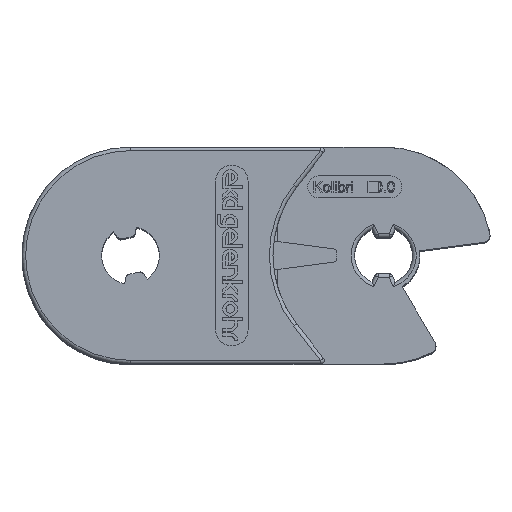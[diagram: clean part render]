
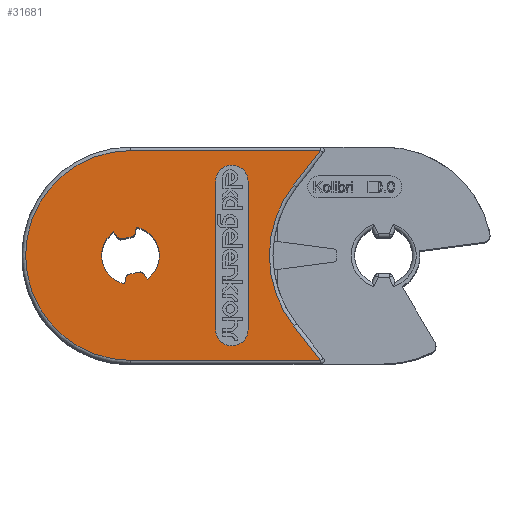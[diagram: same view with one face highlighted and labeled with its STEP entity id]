
A CAD part, top view. The second image highlights one B-rep face of the part: STEP entity #31681.
In plain terms, the highlighted planar face has unit normal (0, 0, 1).
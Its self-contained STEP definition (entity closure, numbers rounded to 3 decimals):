
#1460=CARTESIAN_POINT('',(-42.709,-28.09,7.481));
#1461=VERTEX_POINT('',#1460);
#1468=CARTESIAN_POINT('',(-43.253,-27.32,7.481));
#1469=VERTEX_POINT('',#1468);
#1470=CARTESIAN_POINT('',(-43.253,-27.32,7.481));
#1471=DIRECTION('',(0.577,-0.817,0.0));
#1472=VECTOR('',#1471,0.943);
#1473=LINE('',#1470,#1472);
#1474=EDGE_CURVE('',#1469,#1461,#1473,.T.);
#1499=CARTESIAN_POINT('',(-42.199,-28.291,7.481));
#1500=VERTEX_POINT('',#1499);
#1507=CARTESIAN_POINT('',(-42.301,-27.802,7.481));
#1508=DIRECTION('',(0.,0.,1.));
#1509=DIRECTION('',(-0.817,-0.577,0.));
#1510=AXIS2_PLACEMENT_3D('',#1507,#1508,#1509);
#1511=CIRCLE('',#1510,0.5);
#1512=EDGE_CURVE('',#1461,#1500,#1511,.T.);
#1531=CARTESIAN_POINT('',(-40.698,-27.979,7.481));
#1532=VERTEX_POINT('',#1531);
#1539=CARTESIAN_POINT('',(-42.199,-28.291,7.481));
#1540=DIRECTION('',(0.979,0.204,0.0));
#1541=VECTOR('',#1540,1.533);
#1542=LINE('',#1539,#1541);
#1543=EDGE_CURVE('',#1500,#1532,#1542,.T.);
#1563=CARTESIAN_POINT('',(-40.31,-27.591,7.481));
#1564=VERTEX_POINT('',#1563);
#1571=CARTESIAN_POINT('',(-40.8,-27.489,7.481));
#1572=DIRECTION('',(0.,0.,1.));
#1573=DIRECTION('',(0.204,-0.979,0.));
#1574=AXIS2_PLACEMENT_3D('',#1571,#1572,#1573);
#1575=CIRCLE('',#1574,0.5);
#1576=EDGE_CURVE('',#1532,#1564,#1575,.T.);
#1595=CARTESIAN_POINT('',(-40.118,-26.668,7.481));
#1596=VERTEX_POINT('',#1595);
#1603=CARTESIAN_POINT('',(-40.31,-27.591,7.481));
#1604=DIRECTION('',(0.204,0.979,0.0));
#1605=VECTOR('',#1604,0.943);
#1606=LINE('',#1603,#1605);
#1607=EDGE_CURVE('',#1564,#1596,#1606,.T.);
#1628=CARTESIAN_POINT('',(-39.169,-33.075,7.481));
#1629=VERTEX_POINT('',#1628);
#1636=CARTESIAN_POINT('',(-38.625,-33.845,7.481));
#1637=VERTEX_POINT('',#1636);
#1638=CARTESIAN_POINT('',(-38.625,-33.845,7.481));
#1639=DIRECTION('',(-0.577,0.817,0.0));
#1640=VECTOR('',#1639,0.943);
#1641=LINE('',#1638,#1640);
#1642=EDGE_CURVE('',#1637,#1629,#1641,.T.);
#1667=CARTESIAN_POINT('',(-39.679,-32.874,7.481));
#1668=VERTEX_POINT('',#1667);
#1675=CARTESIAN_POINT('',(-39.578,-33.364,7.481));
#1676=DIRECTION('',(0.,0.,1.));
#1677=DIRECTION('',(0.817,0.577,0.));
#1678=AXIS2_PLACEMENT_3D('',#1675,#1676,#1677);
#1679=CIRCLE('',#1678,0.5);
#1680=EDGE_CURVE('',#1629,#1668,#1679,.T.);
#1699=CARTESIAN_POINT('',(-41.181,-33.186,7.481));
#1700=VERTEX_POINT('',#1699);
#1707=CARTESIAN_POINT('',(-39.679,-32.874,7.481));
#1708=DIRECTION('',(-0.979,-0.204,0.0));
#1709=VECTOR('',#1708,1.533);
#1710=LINE('',#1707,#1709);
#1711=EDGE_CURVE('',#1668,#1700,#1710,.T.);
#1731=CARTESIAN_POINT('',(-41.568,-33.574,7.481));
#1732=VERTEX_POINT('',#1731);
#1739=CARTESIAN_POINT('',(-41.079,-33.676,7.481));
#1740=DIRECTION('',(0.,0.,1.0));
#1741=DIRECTION('',(-0.204,0.979,0.));
#1742=AXIS2_PLACEMENT_3D('',#1739,#1740,#1741);
#1743=CIRCLE('',#1742,0.5);
#1744=EDGE_CURVE('',#1700,#1732,#1743,.T.);
#1763=CARTESIAN_POINT('',(-41.76,-34.497,7.481));
#1764=VERTEX_POINT('',#1763);
#1771=CARTESIAN_POINT('',(-41.568,-33.574,7.481));
#1772=DIRECTION('',(-0.204,-0.979,0.));
#1773=VECTOR('',#1772,0.943);
#1774=LINE('',#1771,#1773);
#1775=EDGE_CURVE('',#1732,#1764,#1774,.T.);
#1795=CARTESIAN_POINT('',(-40.939,-30.583,7.481));
#1796=DIRECTION('',(0.0,0.0,-1.0));
#1797=DIRECTION('',(-1.0,0.0,0.0));
#1798=AXIS2_PLACEMENT_3D('',#1795,#1796,#1797);
#1799=CIRCLE('',#1798,4.0);
#1800=EDGE_CURVE('',#1596,#1637,#1799,.T.);
#1811=CARTESIAN_POINT('',(-40.939,-30.583,7.481));
#1812=DIRECTION('',(0.0,0.0,-1.0));
#1813=DIRECTION('',(-1.0,0.0,0.0));
#1814=AXIS2_PLACEMENT_3D('',#1811,#1812,#1813);
#1815=CIRCLE('',#1814,4.0);
#1816=EDGE_CURVE('',#1764,#1469,#1815,.T.);
#22393=CARTESIAN_POINT('',(-14.646,-16.083,7.481));
#22394=VERTEX_POINT('',#22393);
#22418=CARTESIAN_POINT('',(-14.646,-45.083,7.481));
#22419=VERTEX_POINT('',#22418);
#22442=CARTESIAN_POINT('',(-18.371,-20.831,7.481));
#22443=VERTEX_POINT('',#22442);
#22458=CARTESIAN_POINT('',(-14.646,-16.083,7.481));
#22459=DIRECTION('',(-0.617,-0.787,0.));
#22460=VECTOR('',#22459,6.035);
#22461=LINE('',#22458,#22460);
#22462=EDGE_CURVE('',#22394,#22443,#22461,.T.);
#22474=CARTESIAN_POINT('',(-18.371,-40.334,7.481));
#22475=VERTEX_POINT('',#22474);
#22476=CARTESIAN_POINT('',(-5.939,-30.583,7.481));
#22477=DIRECTION('',(0.,0.,1.0));
#22478=DIRECTION('',(-1.,0.,0.));
#22479=AXIS2_PLACEMENT_3D('',#22476,#22477,#22478);
#22480=CIRCLE('',#22479,15.8);
#22481=EDGE_CURVE('',#22443,#22475,#22480,.T.);
#22506=CARTESIAN_POINT('',(-18.371,-40.334,7.481));
#22507=DIRECTION('',(0.617,-0.787,0.0));
#22508=VECTOR('',#22507,6.035);
#22509=LINE('',#22506,#22508);
#22510=EDGE_CURVE('',#22475,#22419,#22509,.T.);
#22520=CARTESIAN_POINT('',(-40.939,-16.083,7.481));
#22521=VERTEX_POINT('',#22520);
#22531=CARTESIAN_POINT('',(-40.939,-16.083,7.481));
#22532=DIRECTION('',(1.0,0.0,0.0));
#22533=VECTOR('',#22532,26.293);
#22534=LINE('',#22531,#22533);
#22535=EDGE_CURVE('',#22521,#22394,#22534,.T.);
#22552=CARTESIAN_POINT('',(-40.939,-45.083,7.481));
#22553=VERTEX_POINT('',#22552);
#22554=CARTESIAN_POINT('',(-40.939,-30.583,7.481));
#22555=DIRECTION('',(0.0,0.0,-1.0));
#22556=DIRECTION('',(-1.0,0.0,0.0));
#22557=AXIS2_PLACEMENT_3D('',#22554,#22555,#22556);
#22558=CIRCLE('',#22557,14.5);
#22559=EDGE_CURVE('',#22553,#22521,#22558,.T.);
#22587=CARTESIAN_POINT('',(-14.646,-45.083,7.481));
#22588=DIRECTION('',(-1.0,0.0,0.0));
#22589=VECTOR('',#22588,26.293);
#22590=LINE('',#22587,#22589);
#22591=EDGE_CURVE('',#22419,#22553,#22590,.T.);
#23285=CARTESIAN_POINT('',(-29.186,-20.333,7.481));
#23286=VERTEX_POINT('',#23285);
#23287=CARTESIAN_POINT('',(-24.686,-20.333,7.481));
#23288=VERTEX_POINT('',#23287);
#23289=CARTESIAN_POINT('',(-26.936,-20.333,7.481));
#23290=DIRECTION('',(0.0,0.0,-1.0));
#23291=DIRECTION('',(0.0,-1.0,0.0));
#23292=AXIS2_PLACEMENT_3D('',#23289,#23290,#23291);
#23293=CIRCLE('',#23292,2.25);
#23294=EDGE_CURVE('',#23286,#23288,#23293,.T.);
#23338=CARTESIAN_POINT('',(-29.186,-40.833,7.481));
#23339=VERTEX_POINT('',#23338);
#23346=CARTESIAN_POINT('',(-24.686,-40.833,7.481));
#23347=VERTEX_POINT('',#23346);
#23348=CARTESIAN_POINT('',(-26.936,-40.833,7.481));
#23349=DIRECTION('',(0.0,0.0,-1.0));
#23350=DIRECTION('',(0.0,-1.0,0.0));
#23351=AXIS2_PLACEMENT_3D('',#23348,#23349,#23350);
#23352=CIRCLE('',#23351,2.25);
#23353=EDGE_CURVE('',#23347,#23339,#23352,.T.);
#30901=CARTESIAN_POINT('',(-24.686,-20.333,7.481));
#30902=DIRECTION('',(0.0,-1.0,0.0));
#30903=VECTOR('',#30902,20.5);
#30904=LINE('',#30901,#30903);
#30905=EDGE_CURVE('',#23288,#23347,#30904,.T.);
#30923=CARTESIAN_POINT('',(-29.186,-40.833,7.481));
#30924=DIRECTION('',(0.0,1.0,0.0));
#30925=VECTOR('',#30924,20.5);
#30926=LINE('',#30923,#30925);
#30927=EDGE_CURVE('',#23339,#23286,#30926,.T.);
#31648=CARTESIAN_POINT('',(-23.228,-30.583,7.481));
#31649=DIRECTION('',(0.0,0.0,1.0));
#31650=DIRECTION('',(1.0,0.0,0.0));
#31651=AXIS2_PLACEMENT_3D('',#31648,#31649,#31650);
#31652=PLANE('',#31651);
#31653=ORIENTED_EDGE('',*,*,#22591,.F.);
#31654=ORIENTED_EDGE('',*,*,#22510,.F.);
#31655=ORIENTED_EDGE('',*,*,#22481,.F.);
#31656=ORIENTED_EDGE('',*,*,#22462,.F.);
#31657=ORIENTED_EDGE('',*,*,#22535,.F.);
#31658=ORIENTED_EDGE('',*,*,#22559,.F.);
#31659=EDGE_LOOP('',(#31653,#31654,#31655,#31656,#31657,#31658));
#31660=FACE_OUTER_BOUND('',#31659,.T.);
#31661=ORIENTED_EDGE('',*,*,#1800,.T.);
#31662=ORIENTED_EDGE('',*,*,#1642,.T.);
#31663=ORIENTED_EDGE('',*,*,#1680,.T.);
#31664=ORIENTED_EDGE('',*,*,#1711,.T.);
#31665=ORIENTED_EDGE('',*,*,#1744,.T.);
#31666=ORIENTED_EDGE('',*,*,#1775,.T.);
#31667=ORIENTED_EDGE('',*,*,#1816,.T.);
#31668=ORIENTED_EDGE('',*,*,#1474,.T.);
#31669=ORIENTED_EDGE('',*,*,#1512,.T.);
#31670=ORIENTED_EDGE('',*,*,#1543,.T.);
#31671=ORIENTED_EDGE('',*,*,#1576,.T.);
#31672=ORIENTED_EDGE('',*,*,#1607,.T.);
#31673=EDGE_LOOP('',(#31661,#31662,#31663,#31664,#31665,#31666,#31667,#31668,#31669,#31670,#31671,#31672));
#31674=FACE_BOUND('',#31673,.T.);
#31675=ORIENTED_EDGE('',*,*,#23353,.T.);
#31676=ORIENTED_EDGE('',*,*,#30927,.T.);
#31677=ORIENTED_EDGE('',*,*,#23294,.T.);
#31678=ORIENTED_EDGE('',*,*,#30905,.T.);
#31679=EDGE_LOOP('',(#31675,#31676,#31677,#31678));
#31680=FACE_BOUND('',#31679,.T.);
#31681=ADVANCED_FACE('',(#31660,#31674,#31680),#31652,.T.);
